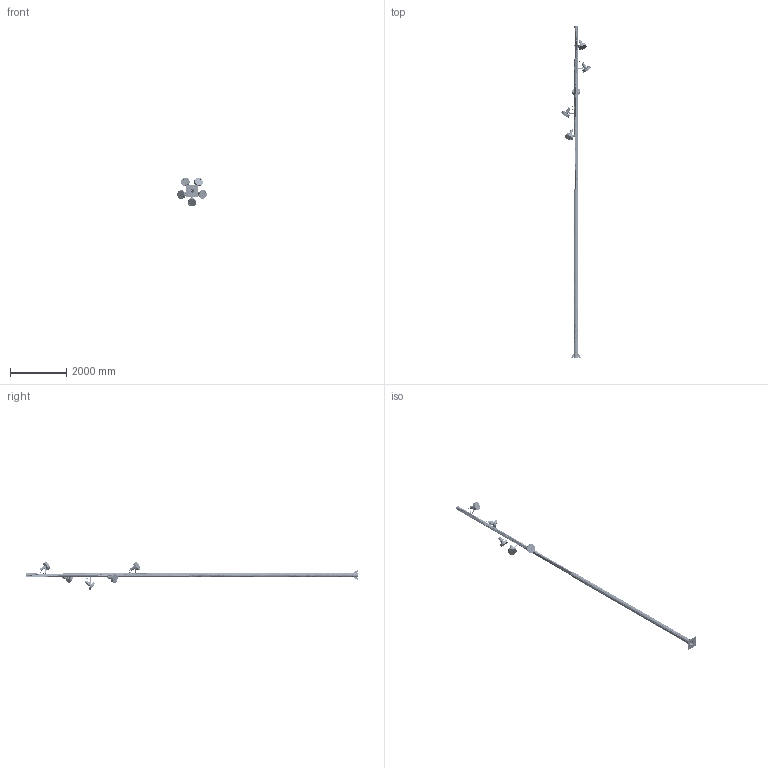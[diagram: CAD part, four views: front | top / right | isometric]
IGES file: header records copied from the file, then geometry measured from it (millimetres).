
Start section: SolidWorks IGES file using analytic representation for surfaces
Global section: file name: C:\Users\jordi.munoz\Desktop\ARNE\IGES WEB\Columna Arne 11,8m 2secciones 5alturas.IGS; native system: SolidWorks 2013; preprocessor: SolidWorks 2013; author: jordi.munoz; date: 150325.154140; units: millimetre
Bounding box: 1047.13 x 11800 x 1016.03 mm (x, y, z)
Volume: 31736159.9 mm3; surface area: 15059170.6 mm2
Topology: 208 solids, 208 shells, 15053 faces, 36292 edges, 21263 vertices
Faces by surface type: revolution 6396, bspline 5211, plane 3446
